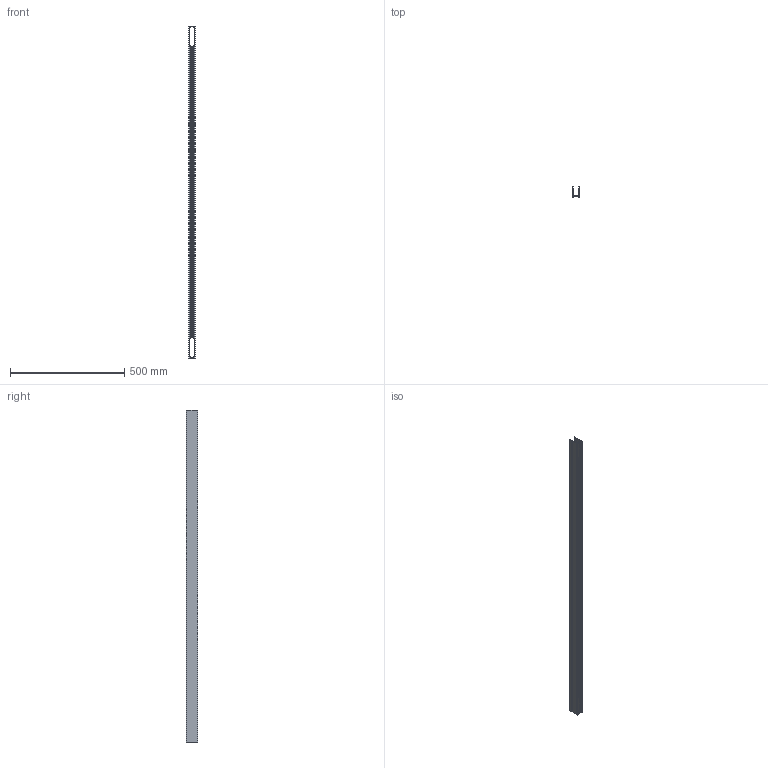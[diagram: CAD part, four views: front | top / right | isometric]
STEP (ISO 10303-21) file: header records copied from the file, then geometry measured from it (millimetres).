
FILE_DESCRIPTION(/* description */ ('Unknown'),/* implementation_level */ '2;1');
FILE_NAME(/* name */ '98470',/* time_stamp */ '2023-02-07T04:52:00-05:00',/* author */ ('Unknown'),/* organization */ ('Unknown'),/* preprocessor_version */ 'ST-DEVELOPER v18.1',/* originating_system */ 'Solid Edge',/* authorisation */ 'Unknown');
FILE_SCHEMA (('AUTOMOTIVE_DESIGN {1 0 10303 214 3 1 1}'));
Length unit declared in the file: millimetre
Products named in the file (1): L-PR0023
Bounding box: 28 x 49 x 1453 mm (x, y, z)
Volume: 332741.6 mm3; surface area: 389103.1 mm2
Topology: 1 solids, 1 shells, 148 faces, 442 edges, 296 vertices
Faces by surface type: cylinder 96, plane 52
Entity records: 5222 total; most frequent: CARTESIAN_POINT 1221, ORIENTED_EDGE 884, DIRECTION 800, EDGE_CURVE 442, VERTEX_POINT 296, AXIS2_PLACEMENT_3D 289, LINE 222, VECTOR 222
